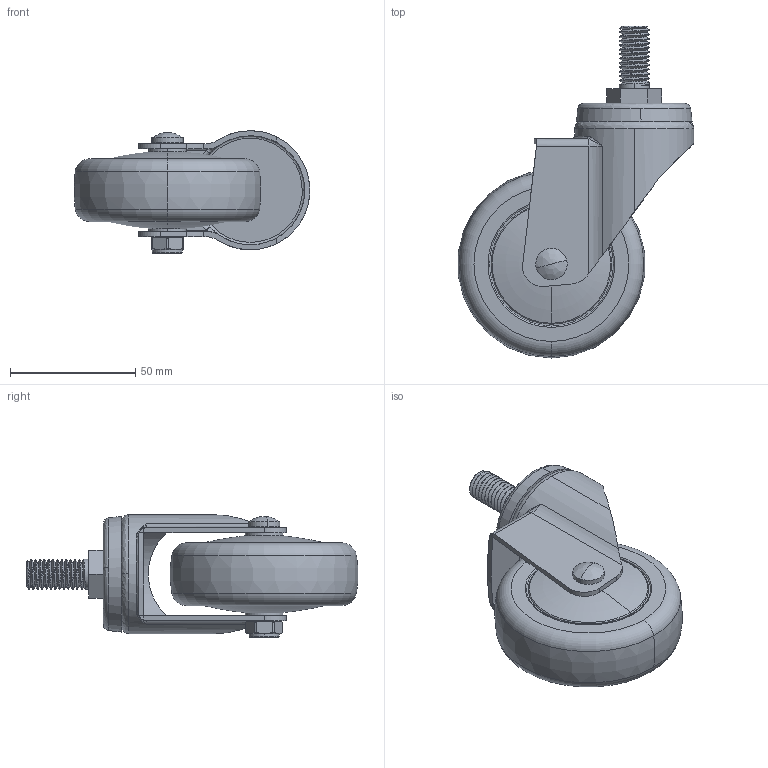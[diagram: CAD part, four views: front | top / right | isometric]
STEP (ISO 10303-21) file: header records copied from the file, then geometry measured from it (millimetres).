
FILE_DESCRIPTION (( 'STEP AP214' ), '1' );
FILE_NAME ('37233-373-67 佪諳勀砃.STEP', '2019-12-13T23:59:46', ( 'Owner' ), ( 'Organization' ), 'SwSTEP 2.0', 'SolidWorks 2014', '' );
FILE_SCHEMA (( 'AUTOMOTIVE_DESIGN' ));
Length unit declared in the file: millimetre
Products named in the file (9): 300-23佪諳12x25; 350-33a; 373-907; 300-34; 价陬; 37233-373-67 佪諳勀砃; 360-03上刚碗 （37系列使用模型）; 3渡勀砃; 373-11勀砃
Assembly tree (8 placements, depth 4):
  37233-373-67 佪諳勀砃
    3渡勀砃
      373-11勀砃
      360-03上刚碗 （37系列使用模型）
      价陬
        300-34
        350-33a
    300-23佪諳12x25
    373-907
Bounding box: 93.89 x 132.32 x 48.9 mm (x, y, z)
Volume: 142080.4 mm3; surface area: 40406.2 mm2
Topology: 6 solids, 6 shells, 257 faces, 702 edges, 462 vertices
Faces by surface type: cylinder 102, bspline 59, plane 50, cone 24, torus 22
Entity records: 91580 total; most frequent: CARTESIAN_POINT 85380, ORIENTED_EDGE 1396, DIRECTION 1012, EDGE_CURVE 698, VERTEX_POINT 462, AXIS2_PLACEMENT_3D 408, B_SPLINE_CURVE_WITH_KNOTS 277, EDGE_LOOP 276
